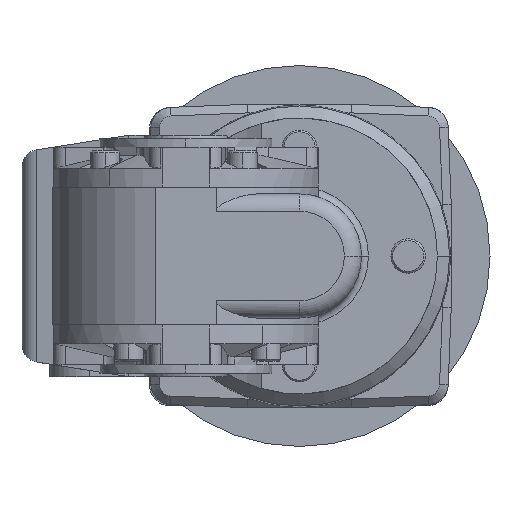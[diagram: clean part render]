
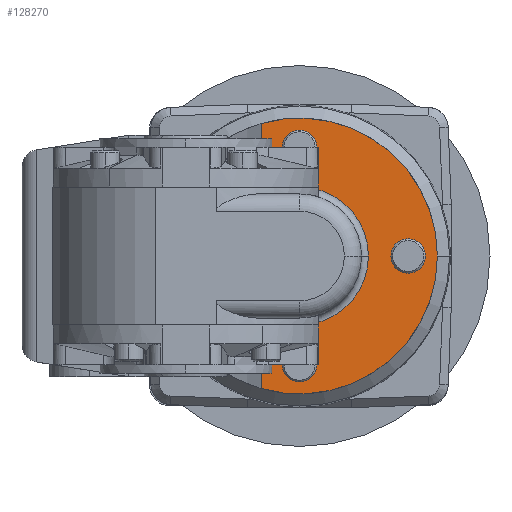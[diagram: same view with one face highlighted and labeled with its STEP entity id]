
A CAD part, left-side view. The second image highlights one B-rep face of the part: STEP entity #128270.
In plain terms, the highlighted planar face has unit normal (-1, 0, 0).
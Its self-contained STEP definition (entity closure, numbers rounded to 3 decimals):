
#20040=CARTESIAN_POINT('',(-185.458,-286.495,
45.017));
#20050=DIRECTION('',(1.,0.,0.));
#20060=DIRECTION('',(0.,1.,0.));
#20070=AXIS2_PLACEMENT_3D('',#20040,#20050,#20060);
#20080=CIRCLE('',#20070,40.);
#20090=CARTESIAN_POINT('',(-185.458,-246.495,
45.017));
#20100=VERTEX_POINT('',#20090);
#20110=CARTESIAN_POINT('',(-185.458,-297.637,
83.434));
#20120=VERTEX_POINT('',#20110);
#20130=EDGE_CURVE('',#20100,#20120,#20080,.T.);
#122290=CARTESIAN_POINT('',(-185.458,-286.495,
65.017));
#122300=VERTEX_POINT('',#122290);
#122330=CARTESIAN_POINT('',(-185.458,-270.184,
65.017));
#122340=DIRECTION('',(0.,-1.,0.));
#122350=VECTOR('',#122340,1.);
#122360=LINE('',#122330,#122350);
#122370=CARTESIAN_POINT('',(-185.458,-297.637,
65.017));
#122380=VERTEX_POINT('',#122370);
#122390=EDGE_CURVE('',#122300,#122380,#122360,.T.);
#125540=CARTESIAN_POINT('',(-185.458,-286.495,
25.017));
#125550=VERTEX_POINT('',#125540);
#125670=CARTESIAN_POINT('',(-185.458,-270.184,
25.017));
#125680=DIRECTION('',(0.,1.,0.));
#125690=VECTOR('',#125680,1.);
#125700=LINE('',#125670,#125690);
#125710=CARTESIAN_POINT('',(-185.458,-297.637,
25.017));
#125720=VERTEX_POINT('',#125710);
#125750=EDGE_CURVE('',#125720,#125550,#125700,.T.);
#125900=CARTESIAN_POINT('',(-185.458,-266.495,
45.017));
#125910=VERTEX_POINT('',#125900);
#126040=CARTESIAN_POINT('',(-185.458,-286.495,
45.017));
#126050=DIRECTION('',(-1.,0.,0.));
#126060=DIRECTION('',(0.,1.,0.));
#126070=AXIS2_PLACEMENT_3D('',#126040,#126050,#126060);
#126080=CIRCLE('',#126070,20.);
#126090=EDGE_CURVE('',#125910,#125550,#126080,.T.);
#127530=CARTESIAN_POINT('',(-185.458,-324.995,
43.698));
#127540=DIRECTION('',(1.,0.,0.));
#127550=DIRECTION('',(0.,1.,0.));
#127560=AXIS2_PLACEMENT_3D('',#127530,#127540,#127550);
#127570=PLANE('',#127560);
#127580=ORIENTED_EDGE('',*,*,#125750,.T.);
#127590=CARTESIAN_POINT('',(-185.458,-297.637,
25.017));
#127600=DIRECTION('',(0.,0.,-1.));
#127610=VECTOR('',#127600,1.);
#127620=LINE('',#127590,#127610);
#127630=CARTESIAN_POINT('',(-185.458,-297.637,
6.601));
#127640=VERTEX_POINT('',#127630);
#127650=EDGE_CURVE('',#125720,#127640,#127620,.T.);
#127660=ORIENTED_EDGE('',*,*,#127650,.F.);
#127670=EDGE_CURVE('',#127640,#20100,#20080,.T.);
#127680=ORIENTED_EDGE('',*,*,#127670,.F.);
#127690=ORIENTED_EDGE('',*,*,#20130,.F.);
#127700=CARTESIAN_POINT('',(-185.458,-297.637,
65.017));
#127710=DIRECTION('',(0.,0.,1.));
#127720=VECTOR('',#127710,1.);
#127730=LINE('',#127700,#127720);
#127740=EDGE_CURVE('',#122380,#20120,#127730,.T.);
#127750=ORIENTED_EDGE('',*,*,#127740,.T.);
#127760=ORIENTED_EDGE('',*,*,#122390,.T.);
#127770=EDGE_CURVE('',#122300,#125910,#126080,.T.);
#127780=ORIENTED_EDGE('',*,*,#127770,.F.);
#127790=ORIENTED_EDGE('',*,*,#126090,.F.);
#127800=EDGE_LOOP('',(#127790,#127780,#127760,#127750,#127690,#127680,
#127660,#127580));
#127810=FACE_OUTER_BOUND('',#127800,.T.);
#127820=CARTESIAN_POINT('',(-185.458,-254.995,
45.017));
#127830=DIRECTION('',(-1.,0.,0.));
#127840=DIRECTION('',(0.,0.,-1.));
#127850=AXIS2_PLACEMENT_3D('',#127820,#127830,#127840);
#127860=CIRCLE('',#127850,5.);
#127870=CARTESIAN_POINT('',(-185.458,-254.995,
40.017));
#127880=VERTEX_POINT('',#127870);
#127890=CARTESIAN_POINT('',(-185.458,-254.995,
50.017));
#127900=VERTEX_POINT('',#127890);
#127910=EDGE_CURVE('',#127880,#127900,#127860,.T.);
#127920=ORIENTED_EDGE('',*,*,#127910,.F.);
#127930=EDGE_CURVE('',#127900,#127880,#127860,.T.);
#127940=ORIENTED_EDGE('',*,*,#127930,.F.);
#127950=EDGE_LOOP('',(#127940,#127920));
#127960=FACE_BOUND('',#127950,.T.);
#127970=CARTESIAN_POINT('',(-185.458,-286.495,
76.517));
#127980=DIRECTION('',(-1.,0.,0.));
#127990=DIRECTION('',(0.,0.,-1.));
#128000=AXIS2_PLACEMENT_3D('',#127970,#127980,#127990);
#128010=CIRCLE('',#128000,5.);
#128020=CARTESIAN_POINT('',(-185.458,-286.495,
71.517));
#128030=VERTEX_POINT('',#128020);
#128040=CARTESIAN_POINT('',(-185.458,-286.495,
81.517));
#128050=VERTEX_POINT('',#128040);
#128060=EDGE_CURVE('',#128030,#128050,#128010,.T.);
#128070=ORIENTED_EDGE('',*,*,#128060,.F.);
#128080=EDGE_CURVE('',#128050,#128030,#128010,.T.);
#128090=ORIENTED_EDGE('',*,*,#128080,.F.);
#128100=EDGE_LOOP('',(#128090,#128070));
#128110=FACE_BOUND('',#128100,.T.);
#128120=CARTESIAN_POINT('',(-185.458,-286.495,
13.517));
#128130=DIRECTION('',(-1.,0.,0.));
#128140=DIRECTION('',(0.,0.,-1.));
#128150=AXIS2_PLACEMENT_3D('',#128120,#128130,#128140);
#128160=CIRCLE('',#128150,5.);
#128170=CARTESIAN_POINT('',(-185.458,-286.495,
8.517));
#128180=VERTEX_POINT('',#128170);
#128190=CARTESIAN_POINT('',(-185.458,-286.495,
18.517));
#128200=VERTEX_POINT('',#128190);
#128210=EDGE_CURVE('',#128180,#128200,#128160,.T.);
#128220=ORIENTED_EDGE('',*,*,#128210,.F.);
#128230=EDGE_CURVE('',#128200,#128180,#128160,.T.);
#128240=ORIENTED_EDGE('',*,*,#128230,.F.);
#128250=EDGE_LOOP('',(#128240,#128220));
#128260=FACE_BOUND('',#128250,.T.);
#128270=ADVANCED_FACE('',(#127810,#127960,#128110,#128260),#127570,.F.);
